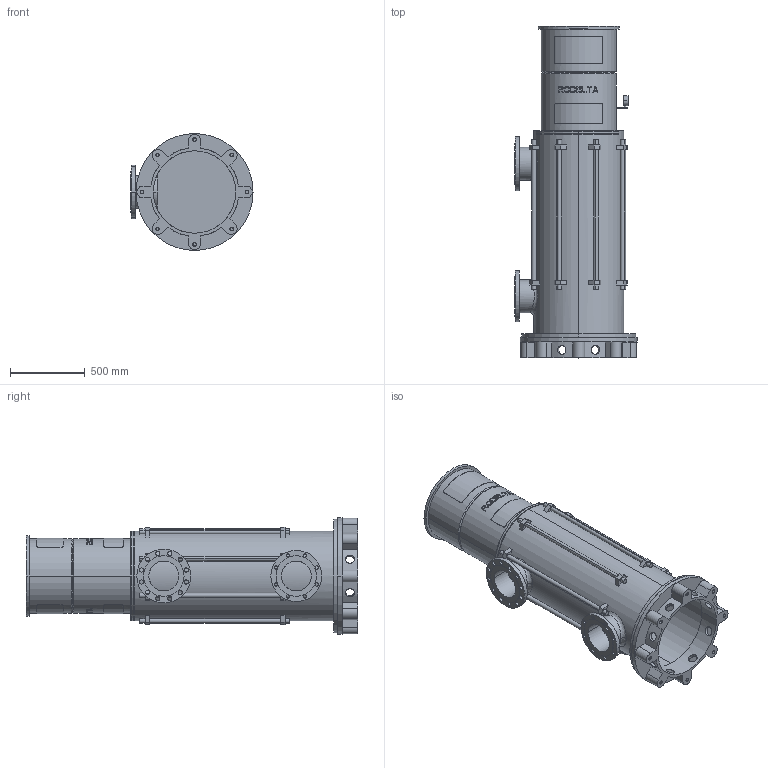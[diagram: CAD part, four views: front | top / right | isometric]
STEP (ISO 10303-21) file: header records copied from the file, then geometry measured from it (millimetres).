
FILE_DESCRIPTION((''),'2;1');
FILE_NAME('LS8_3TR_0GR','2025-10-17T13:25:12',('Lyritlocal'),(''),'CREO PARAMETRIC BY PTC INC, 2022014','CREO PARAMETRIC BY PTC INC, 2022014','');
FILE_SCHEMA(('CONFIG_CONTROL_DESIGN'));
Length unit declared in the file: millimetre
Products named in the file (1): LS8_3TR_0GR
Bounding box: 815 x 2214 x 780 mm (x, y, z)
Volume: 77041241.9 mm3; surface area: 10861973.4 mm2
Topology: 3 solids, 11 shells, 723 faces, 1878 edges, 1246 vertices
Faces by surface type: plane 440, cylinder 267, cone 12, bspline 4
Entity records: 23776 total; most frequent: CARTESIAN_POINT 6095, ORIENTED_EDGE 3724, DIRECTION 3488, EDGE_CURVE 1878, AXIS2_PLACEMENT_3D 1302, VERTEX_POINT 1246, EDGE_LOOP 888, VECTOR 884
